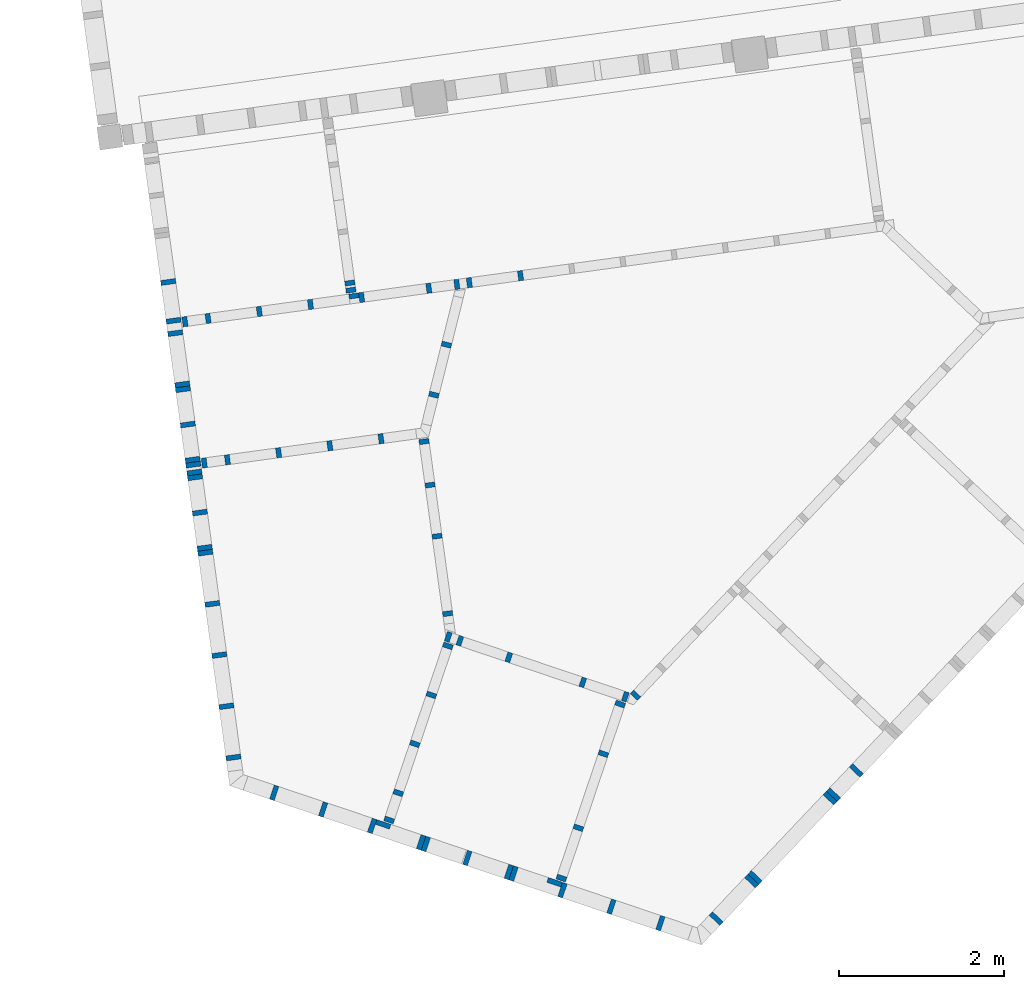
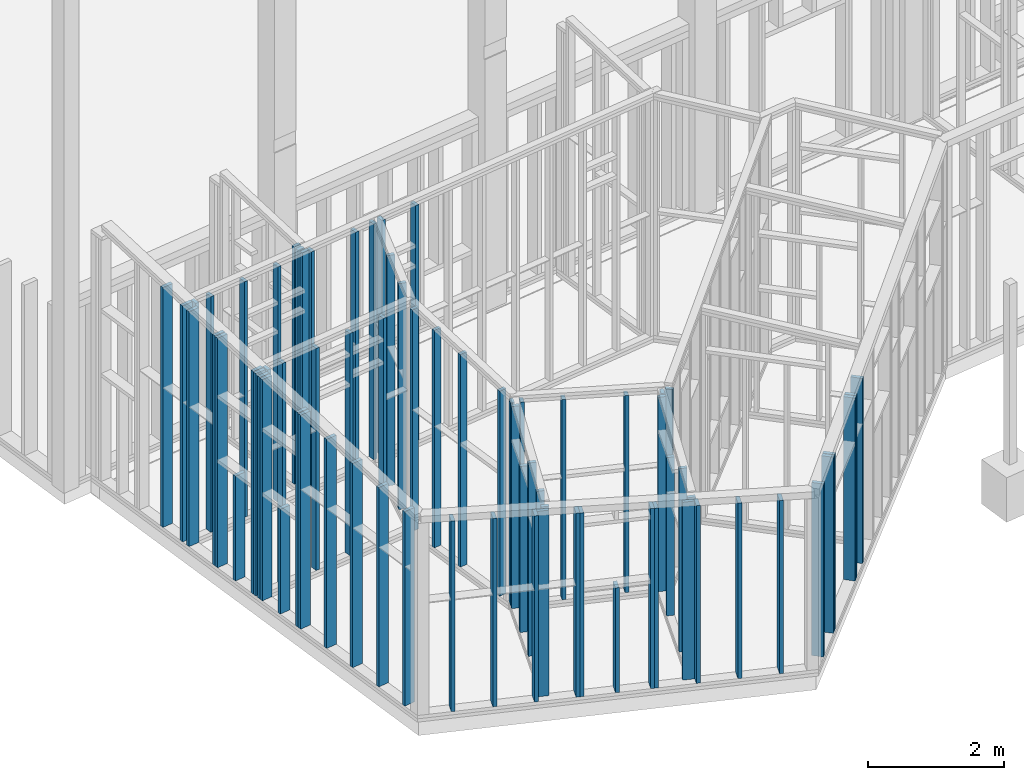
# One storey, part 1 of 24: 74 columns.
"""IFC2X3 building model written with IfcOpenShell, lengths in metres."""

from ifc_helpers import new_model, entity, si_unit, converted_unit, derived_unit, money_unit, direction, frame, origin_with_axes, origin_2d_with_axis, place, context, subcontext, project, spatial, rectangle, extrude, material, type_object, element, save


model = new_model("IFC2X3")

# Units and contexts
model_context = context("Model", 3, precision=1e-05, world=origin_with_axes(), true_north=direction((0.0, 1.0)))
body_context = subcontext(model_context, "Body", "Model", "MODEL_VIEW")
ifc_project = project(units=[si_unit("LENGTHUNIT", "METRE"), si_unit("AREAUNIT", "SQUARE_METRE"), si_unit("VOLUMEUNIT", "CUBIC_METRE"), converted_unit("PLANEANGLEUNIT", "DEGREE", entity("IfcPlaneAngleMeasure", 0.0174532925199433), si_unit("PLANEANGLEUNIT", "RADIAN"), dimensions=[0, 0, 0, 0, 0, 0, 0]), money_unit("EUR"), converted_unit("TIMEUNIT", "Year", entity("IfcTimeMeasure", 31557600.0), si_unit("TIMEUNIT", "SECOND"), dimensions=[0, 0, 1, 0, 0, 0, 0]), si_unit("MASSUNIT", "GRAM", prefix="KILO"), si_unit("THERMODYNAMICTEMPERATUREUNIT", "DEGREE_CELSIUS"), si_unit("LUMINOUSINTENSITYUNIT", "LUMEN"), si_unit("ENERGYUNIT", "JOULE", prefix="MEGA"), derived_unit("THERMALCONDUCTANCEUNIT", [(si_unit("POWERUNIT", "WATT"), 1), (si_unit("LENGTHUNIT", "METRE"), -1), (si_unit("THERMODYNAMICTEMPERATUREUNIT", "KELVIN"), -1)]), derived_unit("SPECIFICHEATCAPACITYUNIT", [(si_unit("ENERGYUNIT", "JOULE"), 1), (si_unit("MASSUNIT", "GRAM", prefix="KILO"), -1), (si_unit("THERMODYNAMICTEMPERATUREUNIT", "KELVIN"), -1)]), derived_unit("MASSDENSITYUNIT", [(si_unit("MASSUNIT", "GRAM", prefix="KILO"), 1), (si_unit("VOLUMEUNIT", "CUBIC_METRE"), -1)])], contexts=[model_context])

# Site, building, storey
site_placement = place(None, origin_with_axes())
site = spatial("IfcSite", under=ifc_project, at=site_placement, Name="Gelände", CompositionType="ELEMENT")
building_placement = place(site_placement, origin_with_axes())
building = spatial("IfcBuilding", under=site, at=building_placement, Name="Gebäude", CompositionType="ELEMENT")
storey_placement = place(building_placement, origin_with_axes())
storey = spatial("IfcBuildingStorey", under=building, at=storey_placement, Name="EG", CompositionType="ELEMENT", Elevation=0.0)

# Columns
ifc_material = material(Name="Bauholz")
column_type_1 = type_object("IfcColumnType", Name="Bauholz 60 x 120", PredefinedType="NOTDEFINED")
for number, where, z_axis, x_axis in (
    (1, (90.94179927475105, -152.7761789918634, -0.04300000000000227), (0.0, 0.0, 1.0), (-0.9907484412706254, -0.1357111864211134, 0.0)),
    (2, (91.56101705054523, -152.6913595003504, -0.04300000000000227), (0.0, 0.0, 1.0), (-0.9907484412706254, -0.1357111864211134, 0.0)),
    (3, (90.79037097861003, -152.7969214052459, -0.04300000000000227), (0.0, 0.0, 1.0), (-0.9907484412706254, -0.1357111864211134, 0.0)),
    (4, (89.63946707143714, -152.9545704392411, -0.04300000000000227), (0.0, 0.0, 1.0), (-0.9907484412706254, -0.1357111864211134, 0.0)),
    (5, (90.45188079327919, -152.8432872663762, -0.04300000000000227), (0.0, 0.0, 1.0), (-0.9907484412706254, -0.1357111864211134, 0.0)),
    (6, (89.02024929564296, -153.039389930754, -0.04300000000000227), (0.0, 0.0, 1.0), (-0.9907484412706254, -0.1357111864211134, 0.0)),
    (7, (88.4010315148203, -153.124209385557, -0.04300000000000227), (0.0, 0.0, 1.0), (-0.9907484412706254, -0.1357111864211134, 0.0)),
    (8, (89.5462283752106, -152.9370619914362, -0.04300000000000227), (0.0, 0.0, 1.0), (-0.1357111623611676, 0.9907484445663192, 0.0)),
    (9, (87.78181374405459, -153.2090289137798, -0.04300000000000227), (0.0, 0.0, 1.0), (-0.9907484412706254, -0.1357111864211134, 0.0)),
    (10, (87.50200711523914, -153.2473563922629, -0.04300000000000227), (0.0, 0.0, 1.0), (-0.9907484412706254, -0.1357111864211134, 0.0)),
):
    element("IfcColumn", number, at=place(storey_placement, frame(where, z_axis=z_axis, x_axis=x_axis)), inside=storey, type_object=column_type_1, material=ifc_material, Name="Stütze-018", context=body_context, shape_type="SweptSolid", body=[
        extrude(rectangle(XDim=0.06, YDim=0.12, at=origin_2d_with_axis()), frame((0.0, 0.0, 0.0), z_axis=(0.0, 0.0, -1.0), x_axis=(-1.0, 0.0, 0.0)), (0.0, 0.0, -1.0), 4.235197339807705),
    ])
column_1_placement = place(storey_placement, frame((89.49692978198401, -152.7797973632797, -0.04300000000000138), z_axis=(0.0, 0.0, 1.0), x_axis=(-0.1357111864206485, 0.9907484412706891, 0.0)))
element("IfcColumn", 11, at=column_1_placement, inside=storey, type_object=column_type_1, material=ifc_material, Name="Stütze-018", context=body_context, shape_type="SweptSolid", body=[
    extrude(rectangle(XDim=0.06, YDim=0.12, at=origin_2d_with_axis()), frame((0.0, 0.0, 0.0), z_axis=(0.0, 0.0, -1.0), x_axis=(-1.0, 0.0, 0.0)), (0.0, 0.0, -1.0), 4.265288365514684),
])
column_2_placement = place(storey_placement, frame((89.50880444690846, -152.8664878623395, -0.04300000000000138), z_axis=(0.0, 0.0, 1.0), x_axis=(-0.1357111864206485, 0.9907484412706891, 0.0)))
element("IfcColumn", 12, at=column_2_placement, inside=storey, type_object=column_type_1, material=ifc_material, Name="Stütze-018", context=body_context, shape_type="SweptSolid", body=[
    extrude(rectangle(XDim=0.06, YDim=0.12, at=origin_2d_with_axis()), frame((0.0, 0.0, 0.0), z_axis=(0.0, 0.0, -1.0), x_axis=(-1.0, 0.0, 0.0)), (0.0, 0.0, -1.0), 4.252991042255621),
])
column_3_placement = place(storey_placement, frame((90.66469614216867, -153.5261797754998, -0.04300000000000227), z_axis=(0.0, 0.0, 1.0), x_axis=(0.2418440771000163, 0.9703151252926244, 0.0)))
element("IfcColumn", 13, at=column_3_placement, inside=storey, type_object=column_type_1, material=ifc_material, Name="Stütze-018", context=body_context, shape_type="SweptSolid", body=[
    extrude(rectangle(XDim=0.06, YDim=0.12, at=origin_2d_with_axis()), frame((0.0, 0.0, 0.0), z_axis=(0.0, 0.0, -1.0), x_axis=(-1.0, 0.0, 0.0)), (0.0, 0.0, -1.0), 4.139725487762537),
])
column_4_placement = place(storey_placement, frame((90.51354359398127, -154.1326267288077, -0.04300000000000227), z_axis=(0.0, 0.0, 1.0), x_axis=(0.2418440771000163, 0.9703151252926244, 0.0)))
element("IfcColumn", 14, at=column_4_placement, inside=storey, type_object=column_type_1, material=ifc_material, Name="Stütze-018", context=body_context, shape_type="SweptSolid", body=[
    extrude(rectangle(XDim=0.06, YDim=0.12, at=origin_2d_with_axis()), frame((0.0, 0.0, 0.0), z_axis=(0.0, 0.0, -1.0), x_axis=(-1.0, 0.0, 0.0)), (0.0, 0.0, -1.0), 4.058166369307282),
])
for number, where, z_axis, x_axis in (
    (15, (89.87356887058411, -154.6636115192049, -0.04300000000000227), (0.0, 0.0, 1.0), (0.9907484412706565, 0.1357111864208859, 0.0)),
    (16, (89.25435109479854, -154.7484310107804, -0.04300000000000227), (0.0, 0.0, 1.0), (0.9907484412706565, 0.1357111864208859, 0.0)),
    (17, (88.6351333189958, -154.8332505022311, -0.04300000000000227), (0.0, 0.0, 1.0), (0.9907484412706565, 0.1357111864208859, 0.0)),
    (18, (88.01591554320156, -154.9180699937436, -0.04300000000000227), (0.0, 0.0, 1.0), (0.9907484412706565, 0.1357111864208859, 0.0)),
    (19, (87.73610892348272, -154.9563974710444, -0.04300000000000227), (0.0, 0.0, 1.0), (0.9907484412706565, 0.1357111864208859, 0.0)),
):
    element("IfcColumn", number, at=place(storey_placement, frame(where, z_axis=z_axis, x_axis=x_axis)), inside=storey, type_object=column_type_1, material=ifc_material, Name="Stütze-018", context=body_context, shape_type="SweptSolid", body=[
        extrude(rectangle(XDim=0.06, YDim=0.12, at=origin_2d_with_axis()), frame((0.0, 0.0, 0.0), z_axis=(0.0, 0.0, -1.0), x_axis=(-1.0, 0.0, 0.0)), (0.0, 0.0, -1.0), 3.992764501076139),
    ])
column_5_placement = place(storey_placement, frame((90.39419877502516, -154.6982768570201, -0.04300000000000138), z_axis=(0.0, 0.0, 1.0), x_axis=(-0.1357111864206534, 0.9907484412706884, 0.0)))
element("IfcColumn", 20, at=column_5_placement, inside=storey, type_object=column_type_1, material=ifc_material, Name="Stütze-018", context=body_context, shape_type="SweptSolid", body=[
    extrude(rectangle(XDim=0.06, YDim=0.12, at=origin_2d_with_axis()), frame((0.0, 0.0, 0.0), z_axis=(0.0, 0.0, -1.0), x_axis=(-1.0, 0.0, 0.0)), (0.0, 0.0, -1.0), 3.981044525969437),
])
column_6_placement = place(storey_placement, frame((90.55099775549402, -155.8429750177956, -0.04300000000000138), z_axis=(0.0, 0.0, 1.0), x_axis=(-0.1357111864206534, 0.9907484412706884, 0.0)))
element("IfcColumn", 21, at=column_6_placement, inside=storey, type_object=column_type_1, material=ifc_material, Name="Stütze-018", context=body_context, shape_type="SweptSolid", body=[
    extrude(rectangle(XDim=0.06, YDim=0.12, at=origin_2d_with_axis()), frame((0.0, 0.0, 0.0), z_axis=(0.0, 0.0, -1.0), x_axis=(-1.0, 0.0, 0.0)), (0.0, 0.0, -1.0), 3.818665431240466),
])
column_7_placement = place(storey_placement, frame((90.67924482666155, -156.7792322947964, -0.04300000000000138), z_axis=(0.0, 0.0, 1.0), x_axis=(-0.1357111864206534, 0.9907484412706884, 0.0)))
element("IfcColumn", 22, at=column_7_placement, inside=storey, type_object=column_type_1, material=ifc_material, Name="Stütze-018", context=body_context, shape_type="SweptSolid", body=[
    extrude(rectangle(XDim=0.06, YDim=0.12, at=origin_2d_with_axis()), frame((0.0, 0.0, 0.0), z_axis=(0.0, 0.0, -1.0), x_axis=(-1.0, 0.0, 0.0)), (0.0, 0.0, -1.0), 3.685854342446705),
])
column_8_placement = place(storey_placement, frame((90.46617826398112, -155.2237572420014, -0.04300000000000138), z_axis=(0.0, 0.0, 1.0), x_axis=(-0.1357111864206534, 0.9907484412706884, 0.0)))
element("IfcColumn", 23, at=column_8_placement, inside=storey, type_object=column_type_1, material=ifc_material, Name="Stütze-018", context=body_context, shape_type="SweptSolid", body=[
    extrude(rectangle(XDim=0.06, YDim=0.12, at=origin_2d_with_axis()), frame((0.0, 0.0, 0.0), z_axis=(0.0, 0.0, -1.0), x_axis=(-1.0, 0.0, 0.0)), (0.0, 0.0, -1.0), 3.906503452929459),
])
column_9_placement = place(storey_placement, frame((90.68171094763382, -157.1703379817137, -0.0430000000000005), z_axis=(0.0, 0.0, 1.0), x_axis=(0.3197974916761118, 0.9474859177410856, 0.0)))
element("IfcColumn", 24, at=column_9_placement, inside=storey, type_object=column_type_1, material=ifc_material, Name="Stütze-018", context=body_context, shape_type="SweptSolid", body=[
    extrude(rectangle(XDim=0.06, YDim=0.12, at=origin_2d_with_axis()), frame((0.0, 0.0, 0.0), z_axis=(0.0, 0.0, -1.0), x_axis=(-1.0, 0.0, 0.0)), (0.0, 0.0, -1.0), 3.631140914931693),
])
column_10_placement = place(storey_placement, frame((90.48183798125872, -157.7625168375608, -0.0430000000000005), z_axis=(0.0, 0.0, 1.0), x_axis=(0.3197974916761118, 0.9474859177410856, 0.0)))
element("IfcColumn", 25, at=column_10_placement, inside=storey, type_object=column_type_1, material=ifc_material, Name="Stütze-018", context=body_context, shape_type="SweptSolid", body=[
    extrude(rectangle(XDim=0.06, YDim=0.12, at=origin_2d_with_axis()), frame((0.0, 0.0, 0.0), z_axis=(0.0, 0.0, -1.0), x_axis=(-1.0, 0.0, 0.0)), (0.0, 0.0, -1.0), 2.983658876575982),
])
column_11_placement = place(storey_placement, frame((90.28196501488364, -158.354695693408, -0.0430000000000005), z_axis=(0.0, 0.0, 1.0), x_axis=(0.3197974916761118, 0.9474859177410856, 0.0)))
element("IfcColumn", 26, at=column_11_placement, inside=storey, type_object=column_type_1, material=ifc_material, Name="Stütze-018", context=body_context, shape_type="SweptSolid", body=[
    extrude(rectangle(XDim=0.06, YDim=0.12, at=origin_2d_with_axis()), frame((0.0, 0.0, 0.0), z_axis=(0.0, 0.0, -1.0), x_axis=(-1.0, 0.0, 0.0)), (0.0, 0.0, -1.0), 3.473855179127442),
])
column_12_placement = place(storey_placement, frame((90.08209204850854, -158.9468745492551, -0.0430000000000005), z_axis=(0.0, 0.0, 1.0), x_axis=(0.3197974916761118, 0.9474859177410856, 0.0)))
element("IfcColumn", 27, at=column_12_placement, inside=storey, type_object=column_type_1, material=ifc_material, Name="Stütze-018", context=body_context, shape_type="SweptSolid", body=[
    extrude(rectangle(XDim=0.06, YDim=0.12, at=origin_2d_with_axis()), frame((0.0, 0.0, 0.0), z_axis=(0.0, 0.0, -1.0), x_axis=(-1.0, 0.0, 0.0)), (0.0, 0.0, -1.0), 3.395212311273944),
])
column_13_placement = place(storey_placement, frame((90.82670121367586, -157.1084545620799, -0.04300000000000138), z_axis=(0.0, 0.0, 1.0), x_axis=(-0.9474859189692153, 0.3197974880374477, 0.0)))
element("IfcColumn", 28, at=column_13_placement, inside=storey, type_object=column_type_1, material=ifc_material, Name="Stütze-018", context=body_context, shape_type="SweptSolid", body=[
    extrude(rectangle(XDim=0.06, YDim=0.12, at=origin_2d_with_axis()), frame((0.0, 0.0, 0.0), z_axis=(0.0, 0.0, -1.0), x_axis=(-1.0, 0.0, 0.0)), (0.0, 0.0, -1.0), 3.635806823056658),
])
column_14_placement = place(storey_placement, frame((91.41887978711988, -157.3083283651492, -0.04300000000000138), z_axis=(0.0, 0.0, 1.0), x_axis=(-0.9474859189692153, 0.3197974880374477, 0.0)))
element("IfcColumn", 29, at=column_14_placement, inside=storey, type_object=column_type_1, material=ifc_material, Name="Stütze-018", context=body_context, shape_type="SweptSolid", body=[
    extrude(rectangle(XDim=0.06, YDim=0.12, at=origin_2d_with_axis()), frame((0.0, 0.0, 0.0), z_axis=(0.0, 0.0, -1.0), x_axis=(-1.0, 0.0, 0.0)), (0.0, 0.0, -1.0), 3.596681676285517),
])
column_15_placement = place(storey_placement, frame((90.6868652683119, -157.0612578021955, -0.04300000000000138), z_axis=(0.0, 0.0, 1.0), x_axis=(-0.9474859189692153, 0.3197974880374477, 0.0)))
element("IfcColumn", 30, at=column_15_placement, inside=storey, type_object=column_type_1, material=ifc_material, Name="Stütze-018", context=body_context, shape_type="SweptSolid", body=[
    extrude(rectangle(XDim=0.06, YDim=0.12, at=origin_2d_with_axis()), frame((0.0, 0.0, 0.0), z_axis=(0.0, 0.0, -1.0), x_axis=(-1.0, 0.0, 0.0)), (0.0, 0.0, -1.0), 3.645045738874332),
])
column_16_placement = place(storey_placement, frame((92.82807990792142, -157.7839654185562, -0.04300000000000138), z_axis=(0.0, 0.0, 1.0), x_axis=(-0.9474859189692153, 0.3197974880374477, 0.0)))
element("IfcColumn", 31, at=column_16_placement, inside=storey, type_object=column_type_1, material=ifc_material, Name="Stütze-018", context=body_context, shape_type="SweptSolid", body=[
    extrude(rectangle(XDim=0.06, YDim=0.12, at=origin_2d_with_axis()), frame((0.0, 0.0, 0.0), z_axis=(0.0, 0.0, -1.0), x_axis=(-1.0, 0.0, 0.0)), (0.0, 0.0, -1.0), 3.503576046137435),
])
column_17_placement = place(storey_placement, frame((89.97157969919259, -159.2742926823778, -0.0430000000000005), z_axis=(0.0, 0.0, 1.0), x_axis=(0.3197974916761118, 0.9474859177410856, 0.0)))
element("IfcColumn", 32, at=column_17_placement, inside=storey, type_object=column_type_1, material=ifc_material, Name="Stütze-018", context=body_context, shape_type="SweptSolid", body=[
    extrude(rectangle(XDim=0.06, YDim=0.12, at=origin_2d_with_axis()), frame((0.0, 0.0, 0.0), z_axis=(0.0, 0.0, -1.0), x_axis=(-1.0, 0.0, 0.0)), (0.0, 0.0, -1.0), 3.351730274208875),
])
column_18_placement = place(storey_placement, frame((92.76607658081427, -157.8738575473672, -0.04300000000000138), z_axis=(0.0, 0.0, 1.0), x_axis=(0.3197974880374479, 0.9474859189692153, 0.0)))
element("IfcColumn", 33, at=column_18_placement, inside=storey, type_object=column_type_1, material=ifc_material, Name="Stütze-018", context=body_context, shape_type="SweptSolid", body=[
    extrude(rectangle(XDim=0.06, YDim=0.12, at=origin_2d_with_axis()), frame((0.0, 0.0, 0.0), z_axis=(0.0, 0.0, -1.0), x_axis=(-1.0, 0.0, 0.0)), (0.0, 0.0, -1.0), 3.493427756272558),
])
column_19_placement = place(storey_placement, frame((92.05594524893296, -159.9778122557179, -0.04300000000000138), z_axis=(0.0, 0.0, 1.0), x_axis=(0.3197974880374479, 0.9474859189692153, 0.0)))
element("IfcColumn", 34, at=column_19_placement, inside=storey, type_object=column_type_1, material=ifc_material, Name="Stütze-018", context=body_context, shape_type="SweptSolid", body=[
    extrude(rectangle(XDim=0.06, YDim=0.12, at=origin_2d_with_axis()), frame((0.0, 0.0, 0.0), z_axis=(0.0, 0.0, -1.0), x_axis=(-1.0, 0.0, 0.0)), (0.0, 0.0, -1.0), 3.214016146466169),
])
column_20_placement = place(storey_placement, frame((92.5633929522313, -158.474361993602, -0.04300000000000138), z_axis=(0.0, 0.0, 1.0), x_axis=(0.3197974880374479, 0.9474859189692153, 0.0)))
element("IfcColumn", 35, at=column_20_placement, inside=storey, type_object=column_type_1, material=ifc_material, Name="Stütze-018", context=body_context, shape_type="SweptSolid", body=[
    extrude(rectangle(XDim=0.06, YDim=0.12, at=origin_2d_with_axis()), frame((0.0, 0.0, 0.0), z_axis=(0.0, 0.0, -1.0), x_axis=(-1.0, 0.0, 0.0)), (0.0, 0.0, -1.0), 2.845945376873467),
])
column_21_placement = place(storey_placement, frame((92.26118438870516, -159.3697362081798, -0.04300000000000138), z_axis=(0.0, 0.0, 1.0), x_axis=(0.3197974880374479, 0.9474859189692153, 0.0)))
element("IfcColumn", 36, at=column_21_placement, inside=storey, type_object=column_type_1, material=ifc_material, Name="Stütze-018", context=body_context, shape_type="SweptSolid", body=[
    extrude(rectangle(XDim=0.06, YDim=0.12, at=origin_2d_with_axis()), frame((0.0, 0.0, 0.0), z_axis=(0.0, 0.0, -1.0), x_axis=(-1.0, 0.0, 0.0)), (0.0, 0.0, -1.0), 3.294770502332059),
])
column_22_placement = place(storey_placement, frame((92.95232856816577, -157.7662214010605, -0.04300000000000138), z_axis=(0.0, 0.0, 1.0), x_axis=(-0.6874340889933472, -0.7262467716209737, 0.0)))
element("IfcColumn", 37, at=column_22_placement, inside=storey, type_object=column_type_1, material=ifc_material, Name="Stütze-018", context=body_context, shape_type="SweptSolid", body=[
    extrude(rectangle(XDim=0.06, YDim=0.12, at=origin_2d_with_axis()), frame((0.0, 0.0, 0.0), z_axis=(0.0, 0.0, -1.0), x_axis=(-1.0, 0.0, 0.0)), (0.0, 0.0, -1.0), 3.504210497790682),
])
column_23_placement = place(storey_placement, frame((92.31425381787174, -157.6105374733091, -0.04300000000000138), z_axis=(0.0, 0.0, 1.0), x_axis=(-0.9474859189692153, 0.3197974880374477, 0.0)))
element("IfcColumn", 38, at=column_23_placement, inside=storey, type_object=column_type_1, material=ifc_material, Name="Stütze-018", context=body_context, shape_type="SweptSolid", body=[
    extrude(rectangle(XDim=0.06, YDim=0.12, at=origin_2d_with_axis()), frame((0.0, 0.0, 0.0), z_axis=(0.0, 0.0, -1.0), x_axis=(-1.0, 0.0, 0.0)), (0.0, 0.0, -1.0), 3.537524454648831),
])
column_type_2 = type_object("IfcColumnType", Name="Bauholz 60 x 180", PredefinedType="NOTDEFINED")
column_24_placement = place(storey_placement, frame((95.62228577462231, -158.6766646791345, -0.0430000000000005), z_axis=(0.0, 0.0, 1.0), x_axis=(0.6874340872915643, 0.7262467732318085, 0.0)))
element("IfcColumn", 39, at=column_24_placement, inside=storey, type_object=column_type_2, material=ifc_material, Name="Stütze-018", context=body_context, shape_type="SweptSolid", body=[
    extrude(rectangle(XDim=0.06, YDim=0.18, at=origin_2d_with_axis()), origin_with_axes(), (0.0, 0.0, 1.0), 3.326515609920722),
])
column_25_placement = place(storey_placement, frame((95.30536899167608, -159.0114746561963, -0.0430000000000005), z_axis=(0.0, 0.0, 1.0), x_axis=(0.6874340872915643, 0.7262467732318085, 0.0)))
element("IfcColumn", 40, at=column_25_placement, inside=storey, type_object=column_type_2, material=ifc_material, Name="Stütze-018", context=body_context, shape_type="SweptSolid", body=[
    extrude(rectangle(XDim=0.06, YDim=0.18, at=origin_2d_with_axis()), origin_with_axes(), (0.0, 0.0, 1.0), 3.285940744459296),
])
column_26_placement = place(storey_placement, frame((94.39795599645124, -159.9701203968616, -0.0430000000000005), z_axis=(0.0, 0.0, 1.0), x_axis=(0.6874340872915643, 0.7262467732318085, 0.0)))
element("IfcColumn", 41, at=column_26_placement, inside=storey, type_object=column_type_2, material=ifc_material, Name="Stütze-018", context=body_context, shape_type="SweptSolid", body=[
    extrude(rectangle(XDim=0.06, YDim=0.18, at=origin_2d_with_axis()), origin_with_axes(), (0.0, 0.0, 1.0), 3.169764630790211),
])
column_27_placement = place(storey_placement, frame((95.34661503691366, -158.9678998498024, -0.0430000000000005), z_axis=(0.0, 0.0, 1.0), x_axis=(0.6874340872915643, 0.7262467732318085, 0.0)))
element("IfcColumn", 42, at=column_27_placement, inside=storey, type_object=column_type_2, material=ifc_material, Name="Stütze-018", context=body_context, shape_type="SweptSolid", body=[
    extrude(rectangle(XDim=0.06, YDim=0.18, at=origin_2d_with_axis()), origin_with_axes(), (0.0, 0.0, 1.0), 3.291221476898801),
])
column_28_placement = place(storey_placement, frame((94.35670995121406, -160.0136952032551, -0.0430000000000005), z_axis=(0.0, 0.0, 1.0), x_axis=(0.6874340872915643, 0.7262467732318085, 0.0)))
element("IfcColumn", 43, at=column_28_placement, inside=storey, type_object=column_type_2, material=ifc_material, Name="Stütze-018", context=body_context, shape_type="SweptSolid", body=[
    extrude(rectangle(XDim=0.06, YDim=0.18, at=origin_2d_with_axis()), origin_with_axes(), (0.0, 0.0, 1.0), 3.164483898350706),
])
column_29_placement = place(storey_placement, frame((93.92706364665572, -160.467599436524, -0.0430000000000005), z_axis=(0.0, 0.0, 1.0), x_axis=(0.6874340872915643, 0.7262467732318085, 0.0)))
element("IfcColumn", 44, at=column_29_placement, inside=storey, type_object=column_type_2, material=ifc_material, Name="Stütze-018", context=body_context, shape_type="SweptSolid", body=[
    extrude(rectangle(XDim=0.06, YDim=0.18, at=origin_2d_with_axis()), origin_with_axes(), (0.0, 0.0, 1.0), 3.109476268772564),
])
column_30_placement = place(storey_placement, frame((93.25257618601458, -160.5241840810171, -0.0430000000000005), z_axis=(0.0, 0.0, 1.0), x_axis=(0.9474859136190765, -0.31979750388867, 0.0)))
element("IfcColumn", 45, at=column_30_placement, inside=storey, type_object=column_type_2, material=ifc_material, Name="Stütze-018", context=body_context, shape_type="SweptSolid", body=[
    extrude(rectangle(XDim=0.06, YDim=0.18, at=origin_2d_with_axis()), origin_with_axes(), (0.0, 0.0, 1.0), 3.113930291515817),
])
column_31_placement = place(storey_placement, frame((92.66039749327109, -160.324310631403, -0.0430000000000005), z_axis=(0.0, 0.0, 1.0), x_axis=(0.9474859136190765, -0.31979750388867, 0.0)))
element("IfcColumn", 46, at=column_31_placement, inside=storey, type_object=column_type_2, material=ifc_material, Name="Stütze-018", context=body_context, shape_type="SweptSolid", body=[
    extrude(rectangle(XDim=0.06, YDim=0.18, at=origin_2d_with_axis()), origin_with_axes(), (0.0, 0.0, 1.0), 3.153055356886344),
])
column_32_placement = place(storey_placement, frame((91.97370834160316, -160.0292123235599, -0.0430000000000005), z_axis=(0.0, 0.0, 1.0), x_axis=(0.3197975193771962, 0.9474859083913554, 0.0)))
element("IfcColumn", 47, at=column_32_placement, inside=storey, type_object=column_type_2, material=ifc_material, Name="Stütze-018", context=body_context, shape_type="SweptSolid", body=[
    extrude(rectangle(XDim=0.06, YDim=0.18, at=origin_2d_with_axis()), origin_with_axes(), (0.0, 0.0, 1.0), 3.196170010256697),
])
column_33_placement = place(storey_placement, frame((92.0682188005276, -160.124437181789, -0.0430000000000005), z_axis=(0.0, 0.0, 1.0), x_axis=(0.9474859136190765, -0.31979750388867, 0.0)))
element("IfcColumn", 48, at=column_33_placement, inside=storey, type_object=column_type_2, material=ifc_material, Name="Stütze-018", context=body_context, shape_type="SweptSolid", body=[
    extrude(rectangle(XDim=0.06, YDim=0.18, at=origin_2d_with_axis()), origin_with_axes(), (0.0, 0.0, 1.0), 3.192180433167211),
])
column_34_placement = place(storey_placement, frame((91.41919095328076, -159.9053758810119, -0.0430000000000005), z_axis=(0.0, 0.0, 1.0), x_axis=(0.9474859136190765, -0.31979750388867, 0.0)))
element("IfcColumn", 49, at=column_34_placement, inside=storey, type_object=column_type_2, material=ifc_material, Name="Stütze-018", context=body_context, shape_type="SweptSolid", body=[
    extrude(rectangle(XDim=0.06, YDim=0.18, at=origin_2d_with_axis()), origin_with_axes(), (0.0, 0.0, 1.0), 3.235061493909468),
])
column_35_placement = place(storey_placement, frame((91.47604010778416, -159.9245637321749, -0.0430000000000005), z_axis=(0.0, 0.0, 1.0), x_axis=(0.9474859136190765, -0.31979750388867, 0.0)))
element("IfcColumn", 50, at=column_35_placement, inside=storey, type_object=column_type_2, material=ifc_material, Name="Stütze-018", context=body_context, shape_type="SweptSolid", body=[
    extrude(rectangle(XDim=0.06, YDim=0.18, at=origin_2d_with_axis()), origin_with_axes(), (0.0, 0.0, 1.0), 3.231305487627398),
])
column_36_placement = place(storey_placement, frame((90.41485588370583, -159.5663905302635, -0.0430000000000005), z_axis=(0.0, 0.0, 1.0), x_axis=(0.9474859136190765, -0.31979750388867, 0.0)))
element("IfcColumn", 51, at=column_36_placement, inside=storey, type_object=column_type_2, material=ifc_material, Name="Stütze-018", context=body_context, shape_type="SweptSolid", body=[
    extrude(rectangle(XDim=0.06, YDim=0.18, at=origin_2d_with_axis()), origin_with_axes(), (0.0, 0.0, 1.0), 3.301417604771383),
])
column_37_placement = place(storey_placement, frame((90.35800672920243, -159.5472026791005, -0.0430000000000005), z_axis=(0.0, 0.0, 1.0), x_axis=(0.9474859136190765, -0.31979750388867, 0.0)))
element("IfcColumn", 52, at=column_37_placement, inside=storey, type_object=column_type_2, material=ifc_material, Name="Stütze-018", context=body_context, shape_type="SweptSolid", body=[
    extrude(rectangle(XDim=0.06, YDim=0.18, at=origin_2d_with_axis()), origin_with_axes(), (0.0, 0.0, 1.0), 3.305173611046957),
])
column_38_placement = place(storey_placement, frame((89.76582803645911, -159.347329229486, -0.0430000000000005), z_axis=(0.0, 0.0, 1.0), x_axis=(0.9474859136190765, -0.31979750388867, 0.0)))
element("IfcColumn", 53, at=column_38_placement, inside=storey, type_object=column_type_2, material=ifc_material, Name="Stütze-018", context=body_context, shape_type="SweptSolid", body=[
    extrude(rectangle(XDim=0.06, YDim=0.18, at=origin_2d_with_axis()), origin_with_axes(), (0.0, 0.0, 1.0), 3.344298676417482),
])
column_39_placement = place(storey_placement, frame((89.1736493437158, -159.1474557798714, -0.0430000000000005), z_axis=(0.0, 0.0, 1.0), x_axis=(0.9474859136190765, -0.31979750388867, 0.0)))
element("IfcColumn", 54, at=column_39_placement, inside=storey, type_object=column_type_2, material=ifc_material, Name="Stütze-018", context=body_context, shape_type="SweptSolid", body=[
    extrude(rectangle(XDim=0.06, YDim=0.18, at=origin_2d_with_axis()), origin_with_axes(), (0.0, 0.0, 1.0), 3.383423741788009),
])
column_40_placement = place(storey_placement, frame((88.58147065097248, -158.9475823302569, -0.0430000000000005), z_axis=(0.0, 0.0, 1.0), x_axis=(0.9474859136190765, -0.31979750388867, 0.0)))
element("IfcColumn", 55, at=column_40_placement, inside=storey, type_object=column_type_2, material=ifc_material, Name="Stütze-018", context=body_context, shape_type="SweptSolid", body=[
    extrude(rectangle(XDim=0.06, YDim=0.18, at=origin_2d_with_axis()), origin_with_axes(), (0.0, 0.0, 1.0), 3.422548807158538),
])
column_41_placement = place(storey_placement, frame((89.89871418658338, -159.32885579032, -0.0430000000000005), z_axis=(0.0, 0.0, 1.0), x_axis=(0.3197976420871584, 0.9474858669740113, 0.0)))
element("IfcColumn", 56, at=column_41_placement, inside=storey, type_object=column_type_2, material=ifc_material, Name="Stütze-018", context=body_context, shape_type="SweptSolid", body=[
    extrude(rectangle(XDim=0.06, YDim=0.18, at=origin_2d_with_axis()), origin_with_axes(), (0.0, 0.0, 1.0), 3.333264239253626),
])
column_42_placement = place(storey_placement, frame((90.91702342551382, -159.7358831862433, -0.04300000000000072), z_axis=(0.0, 0.0, 1.0), x_axis=(0.9474859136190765, -0.31979750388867, 0.0)))
element("IfcColumn", 57, at=column_42_placement, inside=storey, type_object=column_type_2, material=ifc_material, Name="Stütze-018", context=body_context, shape_type="SweptSolid", body=[
    extrude(rectangle(XDim=0.06, YDim=0.18, at=origin_2d_with_axis()), origin_with_axes(), (0.0, 0.0, 1.0), 1.883000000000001),
])
column_43_placement = place(storey_placement, frame((88.08786463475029, -158.5191209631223, -0.04300000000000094), z_axis=(0.0, 0.0, 1.0), x_axis=(0.1357111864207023, -0.9907484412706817, 0.0)))
element("IfcColumn", 58, at=column_43_placement, inside=storey, type_object=column_type_2, material=ifc_material, Name="Stütze-018", context=body_context, shape_type="SweptSolid", body=[
    extrude(rectangle(XDim=0.06, YDim=0.18, at=origin_2d_with_axis()), origin_with_axes(), (0.0, 0.0, 1.0), 3.49301647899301),
])
column_44_placement = place(storey_placement, frame((87.46970018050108, -154.0062618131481, -0.04300000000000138), z_axis=(0.0, 0.0, 1.0), x_axis=(0.1357111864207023, -0.9907484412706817, 0.0)))
element("IfcColumn", 59, at=column_44_placement, inside=storey, type_object=column_type_2, material=ifc_material, Name="Stütze-018", context=body_context, shape_type="SweptSolid", body=[
    extrude(rectangle(XDim=0.06, YDim=0.18, at=origin_2d_with_axis()), origin_with_axes(), (0.0, 0.0, 1.0), 4.133180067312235),
])
column_45_placement = place(storey_placement, frame((87.47784285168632, -154.0657067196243, -0.04300000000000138), z_axis=(0.0, 0.0, 1.0), x_axis=(0.1357111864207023, -0.9907484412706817, 0.0)))
element("IfcColumn", 60, at=column_45_placement, inside=storey, type_object=column_type_2, material=ifc_material, Name="Stütze-018", context=body_context, shape_type="SweptSolid", body=[
    extrude(rectangle(XDim=0.06, YDim=0.18, at=origin_2d_with_axis()), origin_with_axes(), (0.0, 0.0, 1.0), 4.124747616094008),
])
column_46_placement = place(storey_placement, frame((87.60269710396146, -154.9771952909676, -0.04300000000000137), z_axis=(0.0, 0.0, 1.0), x_axis=(0.1357111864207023, -0.9907484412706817, 0.0)))
element("IfcColumn", 61, at=column_46_placement, inside=storey, type_object=column_type_2, material=ifc_material, Name="Stütze-018", context=body_context, shape_type="SweptSolid", body=[
    extrude(rectangle(XDim=0.06, YDim=0.1800000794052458, at=origin_2d_with_axis()), origin_with_axes(), (0.0, 0.0, 1.0), 3.99545003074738),
])
column_47_placement = place(storey_placement, frame((87.59455441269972, -154.9177503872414, -0.04300000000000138), z_axis=(0.0, 0.0, 1.0), x_axis=(0.1357111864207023, -0.9907484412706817, 0.0)))
element("IfcColumn", 62, at=column_47_placement, inside=storey, type_object=column_type_2, material=ifc_material, Name="Stütze-018", context=body_context, shape_type="SweptSolid", body=[
    extrude(rectangle(XDim=0.06, YDim=0.18, at=origin_2d_with_axis()), origin_with_axes(), (0.0, 0.0, 1.0), 4.003882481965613),
])
column_48_placement = place(storey_placement, frame((87.6155896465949, -155.0713163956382, -0.0430000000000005), z_axis=(0.0, 0.0, 1.0), x_axis=(0.1357111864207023, -0.9907484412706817, 0.0)))
element("IfcColumn", 63, at=column_48_placement, inside=storey, type_object=column_type_2, material=ifc_material, Name="Stütze-018", context=body_context, shape_type="SweptSolid", body=[
    extrude(rectangle(XDim=0.06, YDim=0.18, at=origin_2d_with_axis()), origin_with_axes(), (0.0, 0.0, 1.0), 3.982098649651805),
])
column_49_placement = place(storey_placement, frame((87.74044389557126, -155.9828050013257, -0.04300000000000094), z_axis=(0.0, 0.0, 1.0), x_axis=(0.1357111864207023, -0.9907484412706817, 0.0)))
element("IfcColumn", 64, at=column_49_placement, inside=storey, type_object=column_type_2, material=ifc_material, Name="Stütze-018", context=body_context, shape_type="SweptSolid", body=[
    extrude(rectangle(XDim=0.06, YDim=0.18, at=origin_2d_with_axis()), origin_with_axes(), (0.0, 0.0, 1.0), 3.852801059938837),
])
column_50_placement = place(storey_placement, frame((87.7485865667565, -156.0422499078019, -0.04300000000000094), z_axis=(0.0, 0.0, 1.0), x_axis=(0.1357111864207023, -0.9907484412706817, 0.0)))
element("IfcColumn", 65, at=column_50_placement, inside=storey, type_object=column_type_2, material=ifc_material, Name="Stütze-018", context=body_context, shape_type="SweptSolid", body=[
    extrude(rectangle(XDim=0.06, YDim=0.18, at=origin_2d_with_axis()), origin_with_axes(), (0.0, 0.0, 1.0), 3.844368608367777),
])
column_51_placement = place(storey_placement, frame((87.83340609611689, -156.6614676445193, -0.04300000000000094), z_axis=(0.0, 0.0, 1.0), x_axis=(0.1357111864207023, -0.9907484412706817, 0.0)))
element("IfcColumn", 66, at=column_51_placement, inside=storey, type_object=column_type_2, material=ifc_material, Name="Stütze-018", context=body_context, shape_type="SweptSolid", body=[
    extrude(rectangle(XDim=0.06, YDim=0.18, at=origin_2d_with_axis()), origin_with_axes(), (0.0, 0.0, 1.0), 3.75653057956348),
])
column_52_placement = place(storey_placement, frame((87.91822558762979, -157.2806854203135, -0.04300000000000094), z_axis=(0.0, 0.0, 1.0), x_axis=(0.1357111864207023, -0.9907484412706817, 0.0)))
element("IfcColumn", 67, at=column_52_placement, inside=storey, type_object=column_type_2, material=ifc_material, Name="Stütze-018", context=body_context, shape_type="SweptSolid", body=[
    extrude(rectangle(XDim=0.06, YDim=0.18, at=origin_2d_with_axis()), origin_with_axes(), (0.0, 0.0, 1.0), 3.668692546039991),
])
column_53_placement = place(storey_placement, frame((88.00304514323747, -157.8999031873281, -0.04300000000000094), z_axis=(0.0, 0.0, 1.0), x_axis=(0.1357111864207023, -0.9907484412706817, 0.0)))
element("IfcColumn", 68, at=column_53_placement, inside=storey, type_object=column_type_2, material=ifc_material, Name="Stütze-018", context=body_context, shape_type="SweptSolid", body=[
    extrude(rectangle(XDim=0.06, YDim=0.18, at=origin_2d_with_axis()), origin_with_axes(), (0.0, 0.0, 1.0), 3.580854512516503),
])
column_54_placement = place(storey_placement, frame((87.30006119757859, -152.7678262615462, -0.04300000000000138), z_axis=(0.0, 0.0, 1.0), x_axis=(0.1357111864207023, -0.9907484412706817, 0.0)))
element("IfcColumn", 69, at=column_54_placement, inside=storey, type_object=column_type_2, material=ifc_material, Name="Stütze-018", context=body_context, shape_type="SweptSolid", body=[
    extrude(rectangle(XDim=0.06, YDim=0.18, at=origin_2d_with_axis()), origin_with_axes(), (0.0, 0.0, 1.0), 4.308856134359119),
])
column_55_placement = place(storey_placement, frame((87.62373231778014, -155.1307613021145, -0.0430000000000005), z_axis=(0.0, 0.0, 1.0), x_axis=(0.1357111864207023, -0.9907484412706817, 0.0)))
element("IfcColumn", 70, at=column_55_placement, inside=storey, type_object=column_type_2, material=ifc_material, Name="Stütze-018", context=body_context, shape_type="SweptSolid", body=[
    extrude(rectangle(XDim=0.06, YDim=0.18, at=origin_2d_with_axis()), origin_with_axes(), (0.0, 0.0, 1.0), 3.973666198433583),
])
column_56_placement = place(storey_placement, frame((87.3848806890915, -153.3870440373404, -0.04300000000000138), z_axis=(0.0, 0.0, 1.0), x_axis=(0.1357111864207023, -0.9907484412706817, 0.0)))
element("IfcColumn", 71, at=column_56_placement, inside=storey, type_object=column_type_2, material=ifc_material, Name="Stütze-018", context=body_context, shape_type="SweptSolid", body=[
    extrude(rectangle(XDim=0.06, YDim=0.18, at=origin_2d_with_axis()), origin_with_axes(), (0.0, 0.0, 1.0), 4.22101810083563),
])
column_57_placement = place(storey_placement, frame((87.53619866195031, -154.4917285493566, -0.04300000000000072), z_axis=(0.0, 0.0, 1.0), x_axis=(0.1357111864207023, -0.9907484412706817, 0.0)))
element("IfcColumn", 72, at=column_57_placement, inside=storey, type_object=column_type_2, material=ifc_material, Name="Stütze-018", context=body_context, shape_type="SweptSolid", body=[
    extrude(rectangle(XDim=0.06, YDim=0.18, at=origin_2d_with_axis()), origin_with_axes(), (0.0, 0.0, 1.0), 1.883000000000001),
])
column_58_placement = place(storey_placement, frame((87.3641847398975, -153.2359549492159, -0.04300000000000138), z_axis=(0.0, 0.0, 1.0), x_axis=(0.1357111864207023, -0.9907484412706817, 0.0)))
element("IfcColumn", 73, at=column_58_placement, inside=storey, type_object=column_type_2, material=ifc_material, Name="Stütze-018", context=body_context, shape_type="SweptSolid", body=[
    extrude(rectangle(XDim=0.06, YDim=0.18, at=origin_2d_with_axis()), origin_with_axes(), (0.0, 0.0, 1.0), 4.242450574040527),
])
column_59_placement = place(storey_placement, frame((87.68208814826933, -155.5567831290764, -0.04300000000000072), z_axis=(0.0, 0.0, 1.0), x_axis=(0.1357111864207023, -0.9907484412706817, 0.0)))
element("IfcColumn", 74, at=column_59_placement, inside=storey, type_object=column_type_2, material=ifc_material, Name="Stütze-018", context=body_context, shape_type="SweptSolid", body=[
    extrude(rectangle(XDim=0.06, YDim=0.18, at=origin_2d_with_axis()), origin_with_axes(), (0.0, 0.0, 1.0), 1.883000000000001),
])

save(model, "model.ifc")
